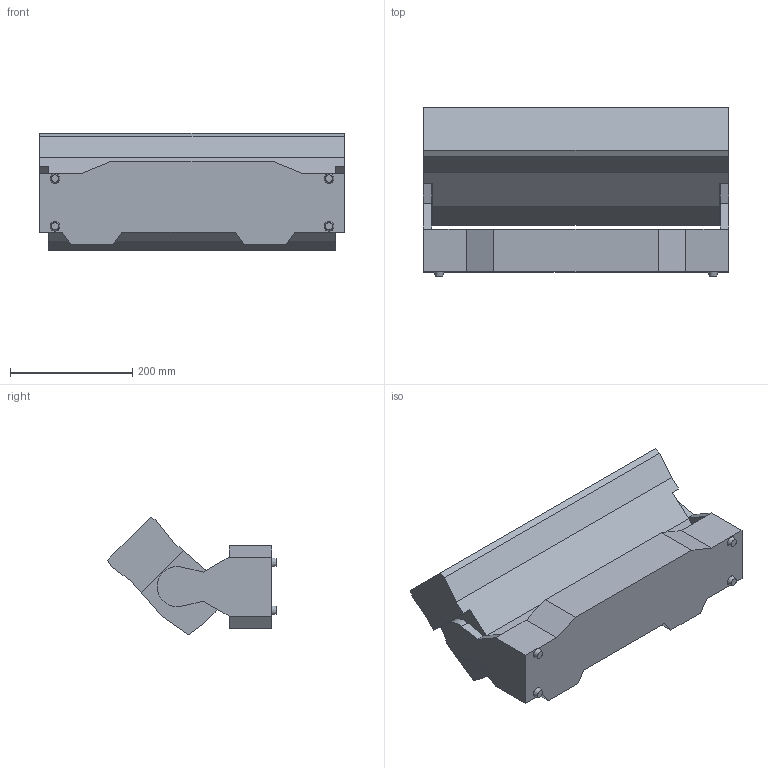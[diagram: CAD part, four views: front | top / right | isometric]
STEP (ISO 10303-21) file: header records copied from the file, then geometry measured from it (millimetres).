
FILE_DESCRIPTION(/* description */ (''),/* implementation_level */ '2;1');
FILE_NAME(/* name */ 'D:\dgooch\Documents\CADENG\PRO\COLORado PXL 8\45\COLORado PXL 8_45.stp',/* time_stamp */ '2021-04-21T16:23:05-04:00',/* author */ ('dgooch'),/* organization */ (''),/* preprocessor_version */ 'ST-DEVELOPER v18.1',/* originating_system */ 'Autodesk Inventor 2021',/* authorisation */ '');
FILE_SCHEMA (('AUTOMOTIVE_DESIGN { 1 0 10303 214 3 1 1 }'));
Length unit declared in the file: millimetre
Products named in the file (3): COLORado PXL 8; Base; Head
Assembly tree (2 placements, depth 2):
  COLORado PXL 8
    Base
    Head
Bounding box: 499.83 x 275.51 x 192.24 mm (x, y, z)
Volume: 12835599.4 mm3; surface area: 539718.4 mm2
Topology: 2 solids, 2 shells, 54 faces, 138 edges, 92 vertices
Faces by surface type: plane 47, cone 4, cylinder 3
Entity records: 1739 total; most frequent: CARTESIAN_POINT 289, ORIENTED_EDGE 276, DIRECTION 270, EDGE_CURVE 138, LINE 124, VECTOR 124, VERTEX_POINT 92, AXIS2_PLACEMENT_3D 73
